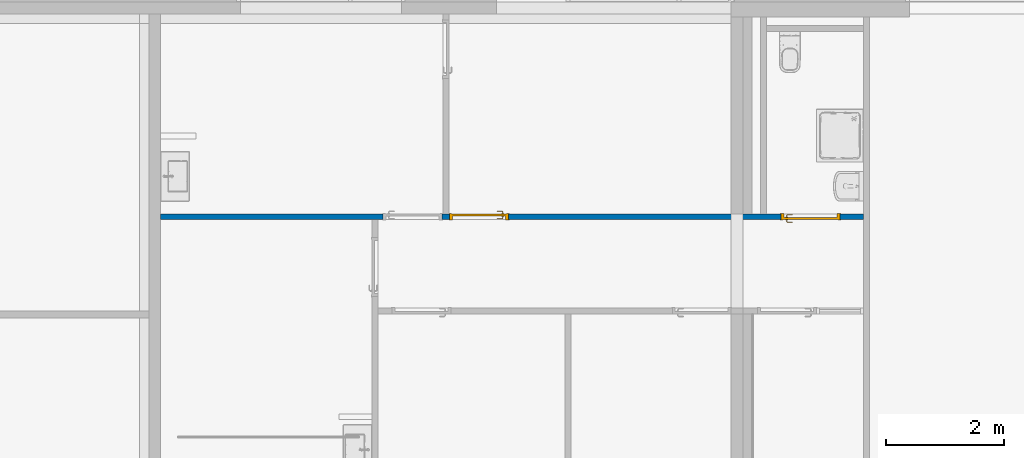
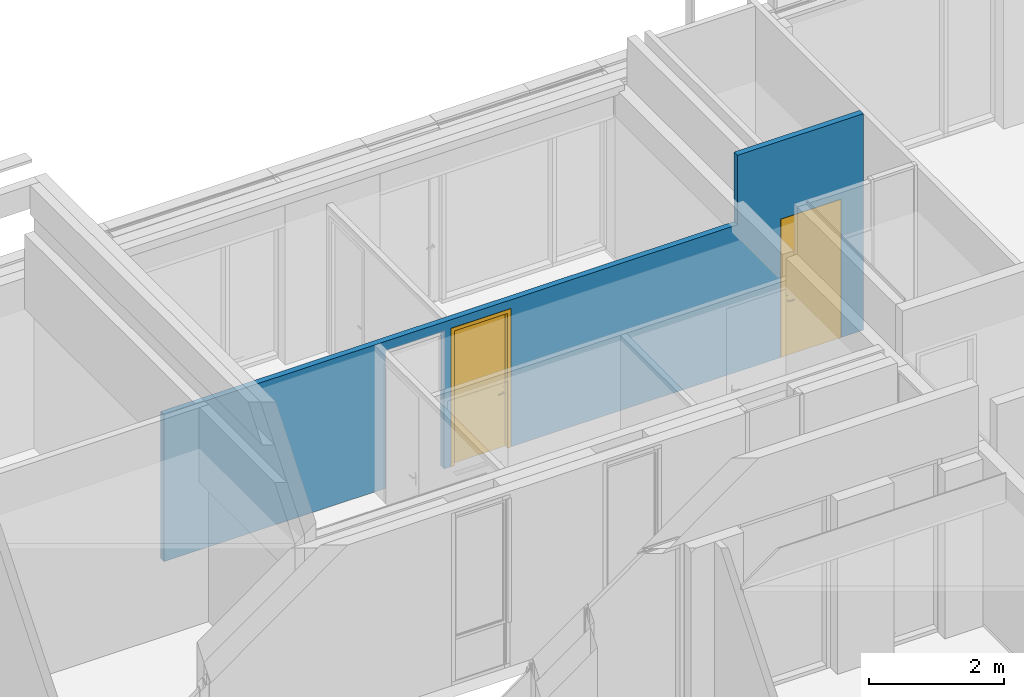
# One storey, part 132 of 240: 2 doors, 1 wall, 4 openings.
"""IFC2X3 building model written with IfcOpenShell, lengths in centimetres."""

from ifc_helpers import new_model, entity, si_unit, converted_unit, derived_unit, direction, frame, frame_2d, origin, place, context, subcontext, project, spatial, polyline, rectangle, extrude, clip, bounded_halfspace, faceted_brep, source, transform, mapped, material, material_list, layer, layer_set, layer_usage, type_object, type_shapes, element, fill, save


model = new_model("IFC2X3")

# Units and contexts
model_context = context("Model", 3, precision=0.001, world=origin(), true_north=direction((6.12303176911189e-17, 1.0)))
body_context = subcontext(model_context, "Body", "Model", "MODEL_VIEW")
ifc_project = project(units=[si_unit("LENGTHUNIT", "METRE", prefix="CENTI"), si_unit("AREAUNIT", "SQUARE_METRE"), si_unit("VOLUMEUNIT", "CUBIC_METRE"), converted_unit("PLANEANGLEUNIT", "DEGREE", entity("IfcRatioMeasure", 0.0174532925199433), si_unit("PLANEANGLEUNIT", "RADIAN"), dimensions=[0, 0, 0, 0, 0, 0, 0]), si_unit("MASSUNIT", "GRAM", prefix="KILO"), derived_unit("MASSDENSITYUNIT", [(si_unit("MASSUNIT", "GRAM", prefix="KILO"), 1), (si_unit("LENGTHUNIT", "METRE"), -3)]), si_unit("TIMEUNIT", "SECOND"), si_unit("FREQUENCYUNIT", "HERTZ"), si_unit("THERMODYNAMICTEMPERATUREUNIT", "DEGREE_CELSIUS"), derived_unit("THERMALTRANSMITTANCEUNIT", [(si_unit("MASSUNIT", "GRAM", prefix="KILO"), 1), (si_unit("THERMODYNAMICTEMPERATUREUNIT", "KELVIN"), -1), (si_unit("TIMEUNIT", "SECOND"), -3)]), derived_unit("VOLUMETRICFLOWRATEUNIT", [(si_unit("LENGTHUNIT", "METRE"), 3), (si_unit("TIMEUNIT", "SECOND"), -1)]), si_unit("ELECTRICCURRENTUNIT", "AMPERE"), si_unit("ELECTRICVOLTAGEUNIT", "VOLT"), si_unit("POWERUNIT", "WATT"), si_unit("FORCEUNIT", "NEWTON", prefix="KILO"), si_unit("ILLUMINANCEUNIT", "LUX"), si_unit("LUMINOUSFLUXUNIT", "LUMEN"), si_unit("LUMINOUSINTENSITYUNIT", "CANDELA"), derived_unit("USERDEFINED", [(si_unit("MASSUNIT", "GRAM", prefix="KILO"), -1), (si_unit("LENGTHUNIT", "METRE"), -2), (si_unit("TIMEUNIT", "SECOND"), 3), (si_unit("LUMINOUSFLUXUNIT", "LUMEN"), 1)]), derived_unit("LINEARVELOCITYUNIT", [(si_unit("LENGTHUNIT", "METRE"), 1), (si_unit("TIMEUNIT", "SECOND"), -1)]), si_unit("PRESSUREUNIT", "PASCAL"), derived_unit("USERDEFINED", [(si_unit("LENGTHUNIT", "METRE"), -2), (si_unit("MASSUNIT", "GRAM", prefix="KILO"), 1), (si_unit("TIMEUNIT", "SECOND"), -2)])], contexts=[model_context])

# Site, building, storey
site_placement = place(None, frame((-2781.94577612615, 7442.24238424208, 0.0)))
site = spatial("IfcSite", under=ifc_project, at=site_placement, Name="Default", CompositionType="ELEMENT")
building_placement = place(site_placement, origin())
building = spatial("IfcBuilding", under=site, at=building_placement, CompositionType="ELEMENT")
storey_placement = place(building_placement, origin())
storey = spatial("IfcBuildingStorey", under=building, at=storey_placement, Name="N00 - COO", CompositionType="ELEMENT", Elevation=0.0)

# Wall, openings, doors
ifc_material_1 = material(Name="01 - Enduit/Plâtre")
ifc_layer_1 = layer(ifc_material_1, 1.3)
ifc_material_2 = material(Name="00 - Isolant")
ifc_layer_2 = layer(ifc_material_2, 7.4)
ifc_layer_3 = layer(ifc_material_1, 1.3)
ifc_layer_set = layer_set([ifc_layer_1, ifc_layer_2, ifc_layer_3], Name="Mur de base:06 - cloisons - Ba13 10cm")
ifc_layer_usage = layer_usage(ifc_layer_set, "AXIS2", "NEGATIVE", 5.0)
wall_type = type_object("IfcWallType", Name="Mur de base:06 - cloisons - Ba13 10cm", PredefinedType="STANDARD", material=ifc_layer_set)
wall_placement = place(building_placement, frame((-9399.49987766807, -355.0, 0.0)))
wall = element("IfcWallStandardCase", 1, at=wall_placement, inside=storey, type_object=wall_type, material=ifc_layer_usage, Name="Mur de base:06 - cloisons - Ba13 10cm", ObjectType="Mur de base:06 - cloisons - Ba13 10cm", context=body_context, shape_type="Clipping", body=[
    clip(extrude(rectangle(XDim=1195.00000006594, YDim=10.0, at=frame_2d((597.500000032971, -1.11022302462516e-14), x_axis=(-1.0, 0.0))), origin(), (0.0, 0.0, 1.0), 391.0), bounded_halfspace(frame((1195.0, -5.0, 391.0), z_axis=(0.0, 0.0, -1.0), x_axis=(0.0, 1.0, 0.0)), True, frame((1195.0, -5.0, 391.0)), polyline([(0.0, 0.0), (0.0, 10.0), (-165.0, 10.0), (-175.0, 10.0), (-205.0, 10.0), (-205.0, 0.0), (0.0, 0.0)]))),
])
opening_1_placement = place(wall_placement, origin())
element("IfcOpeningElement", 2, at=opening_1_placement, cuts=wall, Name="Mur de base:06 - cloisons - Ba13 10cm:4571", ObjectType="Opening", context=body_context, shape_type="SweptSolid", body=[
    extrude(rectangle(XDim=125.499999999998, YDim=979.999999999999, at=frame_2d((0.0, 7.60280727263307e-13), x_axis=(0.0, 1.0))), frame((490.0, 5.0, 328.25), z_axis=(0.0, -1.0, 0.0), x_axis=(-1.0, 0.0, 0.0)), (0.0, 0.0, 1.0), 10.0),
])
opening_2_placement = place(wall_placement, frame((378.500000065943, -5.0, 0.0)))
element("IfcOpeningElement", 3, at=opening_2_placement, cuts=wall, Name="Int. Simple:PP simple (0.93m x 2.50m):1", ObjectType="Opening", context=body_context, shape_type="SweptSolid", body=[
    extrude(rectangle(XDim=248.500000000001, YDim=99.9999999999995, at=frame_2d((124.250000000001, 49.9999999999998), x_axis=(1.0, 0.0))), frame((0.0, 0.0, 0.0), z_axis=(0.0, 1.0, 0.0), x_axis=(0.0, 0.0, 1.0)), (0.0, 0.0, 1.0), 10.0),
])
opening_3_placement = place(wall_placement, frame((491.500000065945, -5.0, 0.0)))
opening_3 = element("IfcOpeningElement", 4, at=opening_3_placement, cuts=wall, Name="Int. Simple:PP simple (0.93m x 2.50m):1", ObjectType="Opening", context=body_context, shape_type="SweptSolid", body=[
    extrude(rectangle(XDim=248.500000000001, YDim=99.9999999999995, at=frame_2d((124.250000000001, 50.0), x_axis=(1.0, 0.0))), frame((0.0, 0.0, 0.0), z_axis=(0.0, 1.0, 0.0), x_axis=(0.0, 0.0, 1.0)), (0.0, 0.0, 1.0), 10.0),
])
opening_4_placement = place(wall_placement, frame((1155.0, 5.0, 0.0)))
opening_4 = element("IfcOpeningElement", 5, at=opening_4_placement, cuts=wall, Name="Int. Simple:PP simple (0.93m x 2.50m):1", ObjectType="Opening", context=body_context, shape_type="SweptSolid", body=[
    extrude(rectangle(XDim=248.500000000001, YDim=99.9999999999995, at=frame_2d((124.250000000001, 50.0), x_axis=(1.0, 0.0))), frame((0.0, 0.0, 0.0), z_axis=(0.0, -1.0, 0.0), x_axis=(0.0, 0.0, 1.0)), (0.0, 0.0, 1.0), 10.0),
])
ifc_material_3 = material(Name="Finition Peinture - Blanc satiné")
ifc_material_4 = material(Name="Bois - Panneau de porte")
ifc_material_5 = material(Name="Bois - Cadre de porte")
ifc_material_list_1 = material_list([ifc_material_3, ifc_material_4, ifc_material_5])
ifc_material_list_2 = material_list([ifc_material_3, ifc_material_4, ifc_material_5])
door_style = type_object("IfcDoorStyle", Name="PP simple (0.93m x 2.50m)", ConstructionType="NOTDEFINED", OperationType="SINGLE_SWING_LEFT", ParameterTakesPrecedence=False, Sizeable=False, material=ifc_material_list_2)
shared_shape = source(origin(), body_context, "Body", "Brep", [
    faceted_brep([(10.5352761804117, -0.500000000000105, 86.6003983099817), (11.5000000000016, -0.500000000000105, 87.0), (11.5000000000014, -0.500000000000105, 108.0), (10.5352761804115, -0.500000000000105, 108.399601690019), (9.50000000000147, -0.500000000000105, 108.535898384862), (8.46472381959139, -0.500000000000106, 108.399601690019), (7.50000000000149, -0.500000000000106, 108.0), (7.50000000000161, -0.500000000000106, 87.0), (8.46472381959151, -0.500000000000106, 86.6003983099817), (9.50000000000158, -0.500000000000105, 86.464101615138), (10.5352761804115, 0.0, 108.399601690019), (11.5000000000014, 0.0, 108.0), (11.5000000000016, 0.0, 87.0), (10.5352761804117, 0.0, 86.6003983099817), (9.50000000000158, 0.0, 86.464101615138), (8.46472381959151, 0.0, 86.6003983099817), (7.50000000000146, 0.0, 87.0), (7.50000000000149, 0.0, 108.0), (8.46472381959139, 0.0, 108.399601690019), (9.50000000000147, 0.0, 108.535898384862)], [[[0, 1, 2, 3, 4, 5, 6, 7, 8, 9]], [[10, 11, 12, 13, 14, 15, 16, 17, 18, 19]], [[16, 15, 8, 7]], [[8, 15, 14, 9]], [[14, 13, 0, 9]], [[13, 12, 1, 0]], [[2, 1, 12, 11]], [[11, 10, 3, 2]], [[3, 10, 19, 4]], [[19, 18, 5, 4]], [[18, 17, 6, 5]], [[7, 6, 17, 16]]]),
    faceted_brep([(10.5352761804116, 4.0, 86.6003983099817), (11.5000000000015, 4.0, 87.0), (11.5000000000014, 4.0, 108.0), (10.5352761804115, 4.0, 108.399601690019), (9.50000000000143, 4.0, 108.535898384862), (8.46472381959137, 4.0, 108.399601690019), (7.50000000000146, 4.0, 108.0), (7.50000000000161, 4.0, 87.0), (8.46472381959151, 4.0, 86.6003983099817), (9.50000000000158, 4.0, 86.464101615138), (10.5352761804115, 4.49999999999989, 108.399601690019), (11.5000000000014, 4.49999999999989, 108.0), (11.5000000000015, 4.49999999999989, 87.0), (10.5352761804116, 4.49999999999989, 86.6003983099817), (9.50000000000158, 4.49999999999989, 86.464101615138), (8.46472381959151, 4.49999999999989, 86.6003983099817), (7.50000000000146, 4.49999999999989, 87.0), (7.50000000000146, 4.49999999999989, 108.0), (8.46472381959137, 4.49999999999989, 108.399601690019), (9.50000000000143, 4.49999999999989, 108.535898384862)], [[[0, 1, 2, 3, 4, 5, 6, 7, 8, 9]], [[10, 11, 12, 13, 14, 15, 16, 17, 18, 19]], [[11, 10, 3, 2]], [[3, 10, 19, 4]], [[19, 18, 5, 4]], [[18, 17, 6, 5]], [[7, 6, 17, 16]], [[16, 15, 8, 7]], [[8, 15, 14, 9]], [[14, 13, 0, 9]], [[13, 12, 1, 0]], [[2, 1, 12, 11]]]),
    faceted_brep([(9.29747013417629, -0.500000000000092, 100.778044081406), (9.70252986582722, -0.50000000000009, 100.778044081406), (10.1000000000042, -0.500000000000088, 100.699999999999), (10.1000000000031, -0.500000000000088, 99.3000000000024), (9.7025298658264, -0.50000000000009, 99.2219559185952), (9.29747013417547, -0.500000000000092, 99.221955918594), (8.8999999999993, -0.500000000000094, 99.2999999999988), (8.89999999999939, -0.500000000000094, 100.7), (8.89999999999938, -3.26509507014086, 100.7), (9.29747013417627, -3.10045754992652, 100.778044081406), (10.9023585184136, -4.70534593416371, 100.778044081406), (11.0701397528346, -4.30028620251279, 100.778044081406), (9.7025298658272, -2.93267631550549, 100.778044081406), (10.1000000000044, -2.76803879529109, 100.7), (10.1000000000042, -2.76803879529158, 99.3000000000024), (9.7025298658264, -2.93267631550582, 99.2219559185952), (11.0701397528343, -4.30028620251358, 99.2219559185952), (10.9023585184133, -4.70534593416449, 99.221955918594), (9.29747013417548, -3.10045754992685, 99.221955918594), (8.89999999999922, -3.26509507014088, 99.2999999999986), (10.7377209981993, -5.10281606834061, 100.7), (11.2347772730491, -3.90281606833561, 100.7), (11.2347772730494, -3.90281606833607, 99.3000000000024), (10.7377209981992, -5.10281606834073, 99.2999999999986), (19.5018640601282, -5.10281606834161, 99.2999999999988), (19.5018640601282, -4.70534593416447, 99.221955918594), (19.5018640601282, -4.30028620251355, 99.2219559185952), (19.5018640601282, -3.9028160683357, 99.3000000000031), (19.5018640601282, -3.90281606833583, 100.7), (19.5018640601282, -4.30028620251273, 100.778044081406), (19.5018640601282, -4.70534593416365, 100.778044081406), (19.5018640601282, -5.10281606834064, 100.699999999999), (14.7307697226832, -5.10281606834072, 100.7), (15.2860019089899, -4.5028160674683, 100.78786867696), (15.3683206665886, -3.9028160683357, 100.7), (15.3683206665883, -3.9028160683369, 99.3000000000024), (15.2860018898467, -4.50281607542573, 99.2121313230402), (14.7307700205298, -5.10281606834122, 99.2999999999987)], [[[0, 1, 2, 3, 4, 5, 6, 7]], [[8, 9, 0, 7]], [[9, 10, 11, 12, 1, 0]], [[12, 13, 2, 1]], [[3, 2, 13, 14]], [[14, 15, 4, 3]], [[15, 16, 17, 18, 5, 4]], [[18, 19, 6, 5]], [[7, 6, 19, 8]], [[20, 10, 9, 8]], [[11, 21, 13, 12]], [[14, 13, 21, 22]], [[22, 16, 15, 14]], [[17, 23, 19, 18]], [[8, 19, 23, 20]], [[24, 25, 26, 27, 28, 29, 30, 31]], [[32, 30, 33]], [[31, 30, 32]], [[10, 20, 32]], [[33, 34, 11]], [[21, 11, 34]], [[34, 29, 28]], [[30, 29, 33]], [[29, 34, 33]], [[10, 32, 33]], [[10, 33, 11]], [[22, 21, 34, 28, 27, 35]], [[35, 26, 36]], [[37, 36, 25]], [[22, 35, 16]], [[35, 27, 26]], [[24, 37, 25]], [[23, 17, 37]], [[37, 17, 36]], [[17, 16, 36]], [[16, 35, 36]], [[25, 36, 26]], [[20, 23, 37, 24, 31, 32]]]),
    faceted_brep([(9.29747013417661, 4.49999999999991, 100.778044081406), (8.89999999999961, 4.4999999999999, 100.7), (8.89999999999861, 4.4999999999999, 99.2999999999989), (9.29747013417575, 4.49999999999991, 99.221955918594), (9.70252986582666, 4.49999999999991, 99.2219559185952), (10.1000000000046, 4.49999999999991, 99.3000000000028), (10.1000000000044, 4.49999999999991, 100.7), (9.70252986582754, 4.49999999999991, 100.778044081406), (10.1000000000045, 6.7485204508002, 99.3000000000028), (10.1000000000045, 6.74852045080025, 100.7), (9.70252986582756, 6.91315797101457, 100.778044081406), (11.083890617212, 8.29451872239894, 100.778044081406), (10.916109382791, 8.69957845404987, 100.778044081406), (9.29747013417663, 7.0809392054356, 100.778044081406), (8.89999999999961, 7.24557672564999, 100.7), (8.89999999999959, 7.2455767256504, 99.2999999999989), (9.29747013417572, 7.08093920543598, 99.221955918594), (10.9161093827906, 8.69957845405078, 99.221955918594), (11.0838906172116, 8.29451872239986, 99.2219559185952), (9.70252986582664, 6.91315797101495, 99.2219559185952), (11.2485281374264, 7.89704858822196, 99.3000000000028), (11.2485281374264, 7.89704858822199, 100.7), (10.7514718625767, 9.09704858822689, 100.7), (10.7514718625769, 9.0970485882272, 99.2999999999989), (19.5045783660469, 7.89704858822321, 99.3000000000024), (19.5045783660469, 8.29451872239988, 99.2219559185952), (19.5045783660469, 8.6995784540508, 99.221955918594), (19.5045783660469, 9.09704858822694, 99.2999999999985), (19.5045783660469, 9.09704858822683, 100.7), (19.5045783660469, 8.69957845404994, 100.778044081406), (19.5045783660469, 8.29451872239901, 100.778044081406), (19.5045783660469, 7.89704858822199, 100.7), (15.3765520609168, 7.89704858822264, 99.3000000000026), (15.3765532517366, 7.89704858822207, 100.7), (15.294234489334, 8.49704858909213, 100.78786867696), (14.7445205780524, 9.09704858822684, 100.7), (14.7445204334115, 9.09704858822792, 99.2999999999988), (15.2942345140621, 8.49704858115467, 99.2121313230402)], [[[0, 1, 2, 3, 4, 5, 6, 7]], [[6, 5, 8, 9]], [[9, 10, 7, 6]], [[10, 11, 12, 13, 0, 7]], [[13, 14, 1, 0]], [[2, 1, 14, 15]], [[15, 16, 3, 2]], [[16, 17, 18, 19, 4, 3]], [[19, 8, 5, 4]], [[9, 8, 20, 21]], [[21, 11, 10, 9]], [[12, 22, 14, 13]], [[15, 14, 22, 23]], [[23, 17, 16, 15]], [[18, 20, 8, 19]], [[24, 25, 26, 27, 28, 29, 30, 31]], [[21, 20, 32, 24, 31, 33]], [[33, 30, 34]], [[35, 34, 29]], [[21, 33, 11]], [[33, 31, 30]], [[28, 35, 29]], [[22, 12, 35]], [[35, 12, 34]], [[12, 11, 34]], [[11, 33, 34]], [[29, 34, 30]], [[22, 35, 28, 27, 36, 23]], [[36, 26, 37]], [[27, 26, 36]], [[17, 23, 36]], [[37, 32, 18]], [[20, 18, 32]], [[32, 25, 24]], [[26, 25, 37]], [[25, 32, 37]], [[17, 36, 37]], [[17, 37, 18]]]),
    faceted_brep([(3.50000000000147, 4.0, 245.0), (96.5000000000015, 4.0, 245.0), (96.5000000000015, 4.0, 0.0), (3.50000000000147, 4.0, 0.0), (3.50000000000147, 0.0, 245.0), (3.50000000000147, 0.0, 0.0), (96.5000000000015, 0.0, 0.0), (96.5000000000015, 0.0, 245.0)], [[[0, 1, 2, 3]], [[4, 5, 6, 7]], [[1, 0, 4, 7]], [[2, 1, 7, 6]], [[3, 2, 6, 5]], [[0, 3, 5, 4]]]),
    faceted_brep([(0.0, 10.0, 0.0), (-1.50000000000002, 10.0, 0.0), (-1.50000000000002, 10.5000000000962, 0.0), (5.0, 10.5000000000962, 0.0), (5.0, 4.0, 0.0), (3.50000000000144, 4.0, 0.0), (3.50000000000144, -0.500000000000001, 0.0), (-1.50000000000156, -0.500000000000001, 0.0), (-1.50000000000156, 0.0, 0.0), (0.0, 0.0, 0.0), (0.0, 0.0, 248.500000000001), (0.0, 10.0, 248.500000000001), (100.0, 10.0, 248.500000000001), (100.0, 10.0, 0.0), (101.5, 10.0, 0.0), (101.5, 10.0, 250.0), (-1.50000000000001, 10.0, 250.0), (5.0, 10.5000000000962, 243.5), (5.0, 4.0, 243.5), (95.0, 4.0, 243.5), (95.0, 4.0, 0.0), (96.499999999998, 4.0, 0.0), (96.499999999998, 4.0, 245.0), (3.50000000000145, 4.0, 245.0), (100.0, 0.0, 248.500000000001), (100.0, 0.0, 0.0), (101.500000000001, 0.0, 0.0), (101.500000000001, -0.500000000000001, 0.0), (96.499999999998, -0.500000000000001, 0.0), (95.0, 10.5000000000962, 0.0), (101.5, 10.5000000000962, 0.0), (95.0, 10.5000000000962, 243.5), (3.50000000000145, -0.500000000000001, 245.0), (96.499999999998, -0.500000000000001, 245.0), (101.500000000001, -0.500000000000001, 250.0), (-1.50000000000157, -0.500000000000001, 250.0), (-1.50000000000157, 0.0, 250.0), (101.500000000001, 0.0, 250.0), (-1.50000000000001, 10.5000000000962, 250.0), (101.5, 10.5000000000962, 250.0)], [[[0, 1, 2, 3, 4, 5, 6, 7, 8, 9]], [[0, 9, 10, 11]], [[1, 0, 11, 12, 13, 14, 15, 16]], [[3, 17, 18, 4]], [[5, 4, 18, 19, 20, 21, 22, 23]], [[12, 24, 25, 13]], [[13, 25, 26, 27, 28, 21, 20, 29, 30, 14]], [[19, 31, 29, 20]], [[11, 10, 24, 12]], [[18, 17, 31, 19]], [[5, 23, 32, 6]], [[7, 6, 32, 33, 28, 27, 34, 35]], [[8, 7, 35, 36]], [[9, 8, 36, 37, 26, 25, 24, 10]], [[2, 1, 16, 38]], [[3, 2, 38, 39, 30, 29, 31, 17]], [[33, 22, 21, 28]], [[37, 34, 27, 26]], [[39, 15, 14, 30]], [[32, 23, 22, 33]], [[36, 35, 34, 37]], [[38, 16, 15, 39]]]),
])
type_shapes(door_style, [shared_shape])
door_1_placement = place(opening_4_placement, frame((-100.0, -10.0, 0.0)))
door_1 = element("IfcDoor", 6, at=door_1_placement, inside=storey, type_object=door_style, material=ifc_material_list_1, Name="Int. Simple:PP simple (0.93m x 2.50m)", ObjectType="Int. Simple:PP simple (0.93m x 2.50m)", OverallHeight=248.500000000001, OverallWidth=99.9999999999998, context=body_context, shape_type="MappedRepresentation", body=[
    mapped(shared_shape, transform((0.0, 0.0, 0.0), scale=1.0)),
])
fill(opening_4, door_1)
ifc_material_list_3 = material_list([ifc_material_3, ifc_material_4, ifc_material_5])
door_2_placement = place(opening_3_placement, frame((100.0, 10.0, 0.0), z_axis=(0.0, 0.0, 1.0), x_axis=(-1.0, 0.0, 0.0)))
door_2 = element("IfcDoor", 7, at=door_2_placement, inside=storey, type_object=door_style, material=ifc_material_list_3, Name="Int. Simple:PP simple (0.93m x 2.50m)", ObjectType="Int. Simple:PP simple (0.93m x 2.50m)", OverallHeight=248.500000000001, OverallWidth=99.9999999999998, context=body_context, shape_type="MappedRepresentation", body=[
    mapped(shared_shape, transform((0.0, 0.0, 0.0), scale=1.0)),
])
fill(opening_3, door_2)

save(model, "model.ifc")
